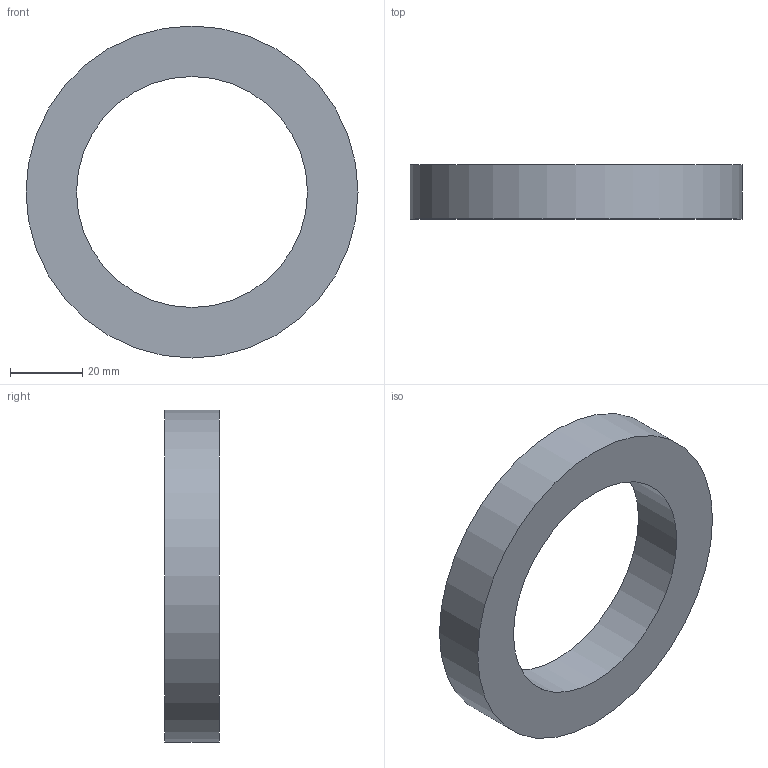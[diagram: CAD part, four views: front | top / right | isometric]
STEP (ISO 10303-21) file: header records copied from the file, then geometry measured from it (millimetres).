
FILE_DESCRIPTION (( 'STEP AP214' ), '1' );
FILE_NAME ('10FF.092.005.15NR.STEP', '2026-03-25T15:16:39', ( '' ), ( '' ), 'SwSTEP 2.0', 'SolidWorks 2025', '' );
FILE_SCHEMA (( 'AUTOMOTIVE_DESIGN' ));
Length unit declared in the file: millimetre
Products named in the file (1): 10FF.092.005.15NR
Bounding box: 92 x 15 x 92 mm (x, y, z)
Volume: 51459.3 mm3; surface area: 14212.6 mm2
Topology: 1 solids, 1 shells, 4 faces, 6 edges, 4 vertices
Faces by surface type: plane 2, cylinder 2
Full cylindrical faces by diameter (mm): 64 x1, 92 x1
Entity records: 111 total; most frequent: DIRECTION 18, CARTESIAN_POINT 13, AXIS2_PLACEMENT_3D 9, EDGE_LOOP 8, ORIENTED_EDGE 8, FACE_OUTER_BOUND 6, ADVANCED_FACE 4, CIRCLE 4
